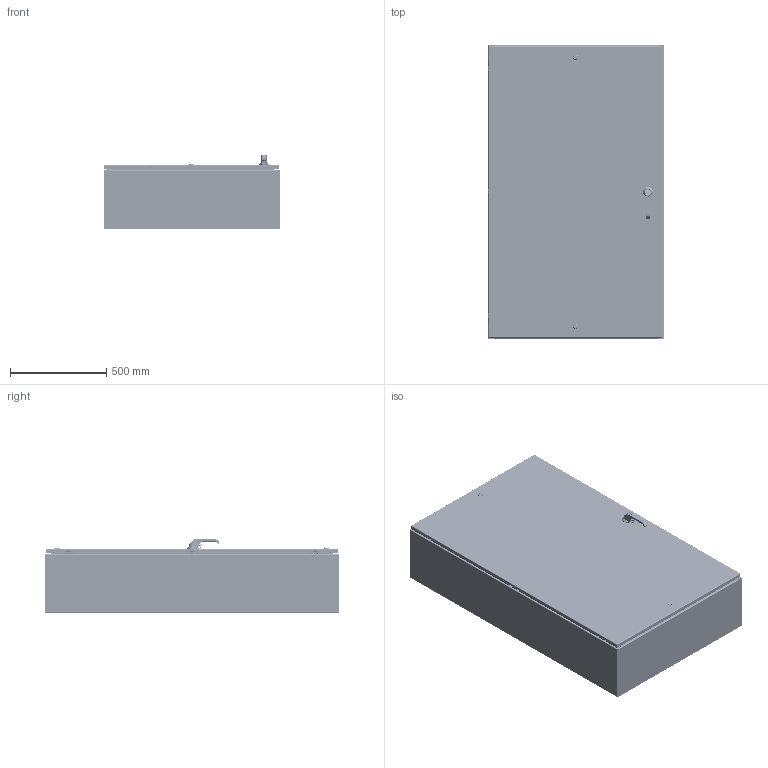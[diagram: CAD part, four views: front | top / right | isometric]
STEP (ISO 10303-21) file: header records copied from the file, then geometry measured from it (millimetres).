
FILE_DESCRIPTION((''),'2;1');
FILE_NAME('MODEL-300_ASM','2024-11-11T15:56:23',('joshi'),('SAGINAW CONTROL & ENGINEERING'),'CREO PARAMETRIC BY PTC INC, 2021284','CREO PARAMETRIC BY PTC INC, 2021284','');
FILE_SCHEMA(('AUTOMOTIVE_DESIGN { 1 0 10303 214 1 1 1 1 }'));
Length unit declared in the file: inch
Products named in the file (62): MODEL-300-BDY; MODEL-300-TP; MODEL-300-BTM; MODEL-300-DR; 100837; 100882; 111267; 100794_SHAFT; 100794_INSERT; 100794_CAM; 100794_NUT; 100794_SCREW; 100794_ASM; MODEL-300-ROD-UPR; 128146; 128145; 128144; 102482; MODEL-300-ROD-UPR_ASM; 128143; 112504; MODEL-300-ROD-LWR; MODEL-300-ROD-LWR_ASM; 100955_SCREW_MTG; 100955_PADLOCK_CATCH; 100955_SCREW_LARGE; 100955_INSERT_SHAFT; 100955_INSERT_PKH; 100955_GASKET; 100955_O-RING; 100955_BASE; 100955_SPRING; 100955_HANDLE; 100955_CAM_SHAFT; 100955_HANDLE_ASM; 100955_CAM_ADAPTER; 100955_EARTH_NUT; 100955_FLANGE_NUT; 100955_CAM_NUT; 100955_KEY_INSERT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
Assembly tree (112 placements, depth 5):
  MODEL-300_ASM
    MODEL-300-BDY
    MODEL-300-TP
    MODEL-300-BTM
    MODEL-300-DOOR-ASSY_ASM
      MODEL-300-DR
      100837  x5
      100882  x4
      111267
      100794_ASM  x2
        100794_SHAFT
        100794_INSERT
        100794_CAM
        100794_NUT
        100794_SCREW
      MODEL-300-ROD-UPR_ASM
        MODEL-300-ROD-UPR
        128146
        128145
        128144
        102482  x2
      128143  x2
      112504  x2
      MODEL-300-ROD-LWR_ASM
        MODEL-300-ROD-LWR
        128146
        128145
        128144
        102482  x2
      100955_ASM
        100955_SCREW_MTG
        100955_PADLOCK_CATCH
        100955_SCREW_LARGE  x2
        100955_INSERT_SHAFT
        100955_INSERT_PKH
        100955_GASKET
        100955_O-RING
        100955_BASE
        100955_SPRING
        100955_HANDLE_ASM
          100955_HANDLE
          100955_CAM_SHAFT
        100955_CAM_ADAPTER
        100955_EARTH_NUT
        100955_FLANGE_NUT
        100955_CAM_NUT
        100955_KEY_INSERT
        100955_SPRING_CAM
        100955_TORSION_SPRING
        100955_SCREW_INSERT
      102237_ASM
        102237
        100030  x2
      MODEL-300-POUR-GSKT
      126392_ASM  x3
        126392
      126395  x3
      102483  x9
      101389  x3
      101226  x3
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Bounding box: 914.4 x 1524 x 383.3 mm (x, y, z)
Volume: 13904132.7 mm3; surface area: 12337727.6 mm2
Topology: 113 solids, 113 shells, 9952 faces, 24888 edges, 15185 vertices
Faces by surface type: plane 3659, cylinder 2625, bspline 1754, torus 893, cone 665, sphere 326, extrusion 30
Entity records: 353644 total; most frequent: CARTESIAN_POINT 143529, ORIENTED_EDGE 32760, DIRECTION 29461, PRESENTATION_STYLE_ASSIGNMENT 16616, EDGE_CURVE 16380, STYLED_ITEM 16336, CURVE_STYLE 16218, AXIS2_PLACEMENT_3D 10892
